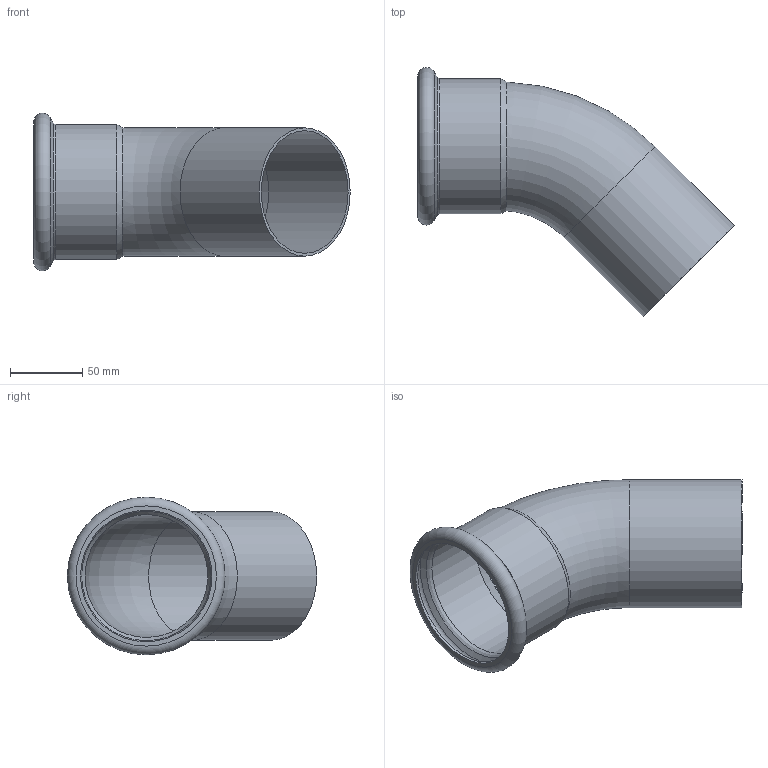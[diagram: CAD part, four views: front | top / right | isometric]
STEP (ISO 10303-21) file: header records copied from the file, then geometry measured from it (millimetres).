
FILE_DESCRIPTION((''),'2;1');
FILE_NAME('G:\Technics\CAD\Bauteile\089\6904089(1).stp','2008-03-13T07:31:17',('herberg'),(''),'Autodesk Inventor 2008','Autodesk Inventor 2008','');
FILE_SCHEMA(('AUTOMOTIVE_DESIGN { 1 0 10303 214 1 1 1 1 }'));
Length unit declared in the file: millimetre
Products named in the file (1): 6904089(1)
Bounding box: 218.91 x 172.46 x 109.1 mm (x, y, z)
Volume: 127663.9 mm3; surface area: 128787.9 mm2
Topology: 1 solids, 1 shells, 18 faces, 34 edges, 19 vertices
Faces by surface type: cylinder 5, torus 4, cone 4, plane 3, bspline 2
Full cylindrical faces by diameter (mm): 84.9 x1, 88.9 x1, 89.5 x1, 91 x1, 93.5 x1
Entity records: 540 total; most frequent: CARTESIAN_POINT 215, DIRECTION 66, ORIENTED_EDGE 36, EDGE_LOOP 36, AXIS2_PLACEMENT_3D 33, VERTEX_POINT 18, EDGE_CURVE 18, FACE_OUTER_BOUND 18
